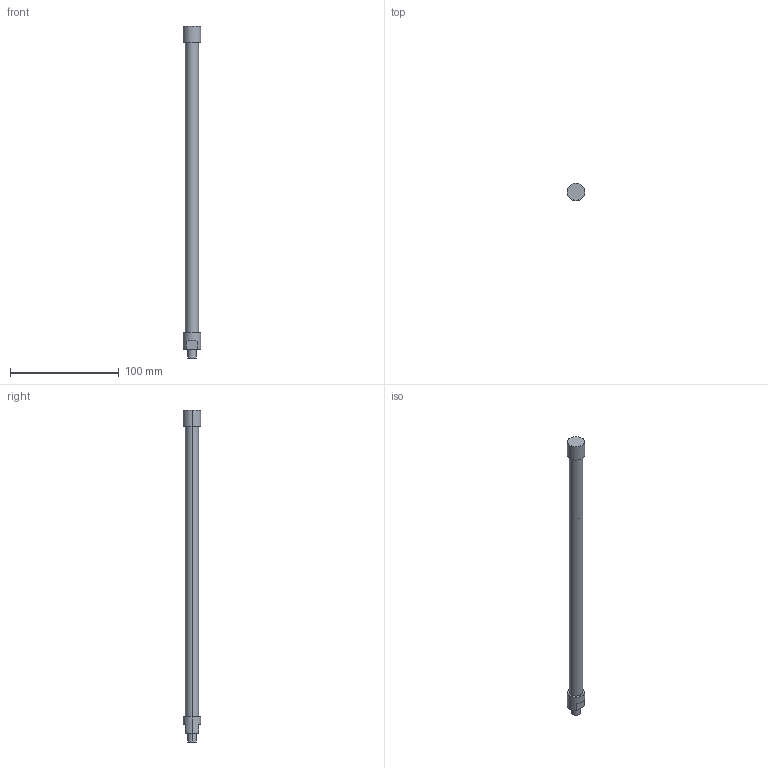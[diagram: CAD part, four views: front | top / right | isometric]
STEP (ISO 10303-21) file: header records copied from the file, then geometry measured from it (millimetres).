
FILE_DESCRIPTION(('STEP AP214'),'1');
FILE_NAME('C:/Users/Autocad/Desktop/305-120 M.stp','2014-02-10T09:23:00',(' '),(' '),'Spatial InterOp 3D',' ',' ');
FILE_SCHEMA(('automotive_design'));
Length unit declared in the file: metre
Products named in the file (2): 1; 2
Bounding box: 16 x 16 x 305 mm (x, y, z)
Volume: 17354.8 mm3; surface area: 19709.7 mm2
Topology: 1 solids, 5 shells, 27 faces, 62 edges, 46 vertices
Faces by surface type: cylinder 14, plane 13
Entity records: 1056 total; most frequent: DIRECTION 158, CARTESIAN_POINT 137, ORIENTED_EDGE 112, AXIS2_PLACEMENT_3D 67, EDGE_CURVE 62, VERTEX_POINT 46, CIRCLE 38, EDGE_LOOP 32
